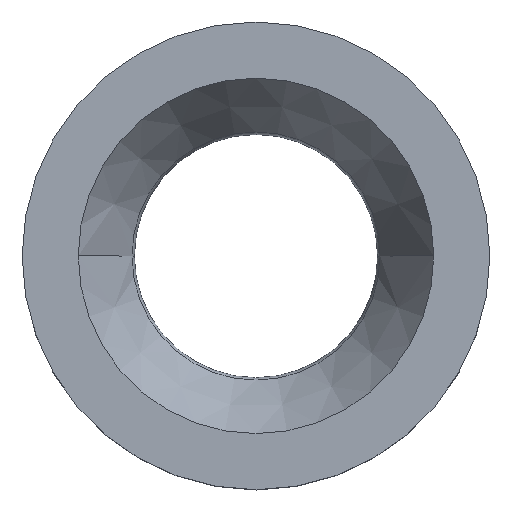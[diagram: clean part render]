
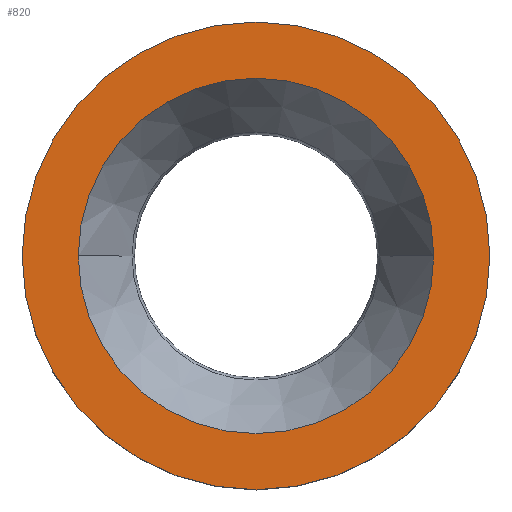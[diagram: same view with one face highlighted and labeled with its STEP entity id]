
A CAD part, top view. The second image highlights one B-rep face of the part: STEP entity #820.
In plain terms, the highlighted planar face has unit normal (0, 0, 1).
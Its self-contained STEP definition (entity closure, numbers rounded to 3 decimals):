
#125=CARTESIAN_POINT('',(0.,0.,16.));
#126=DIRECTION('',(0.,0.,1.));
#127=DIRECTION('',(1.,0.,0.));
#128=AXIS2_PLACEMENT_3D('',#125,#126,#127);
#130=CARTESIAN_POINT('',(0.,0.,16.));
#131=DIRECTION('',(0.,0.,1.));
#132=DIRECTION('',(-1.,0.,0.));
#133=AXIS2_PLACEMENT_3D('',#130,#131,#132);
#135=CARTESIAN_POINT('',(0.,0.,16.));
#136=DIRECTION('',(0.,0.,-1.));
#137=DIRECTION('',(1.,0.,0.));
#138=AXIS2_PLACEMENT_3D('',#135,#136,#137);
#140=CARTESIAN_POINT('',(0.,0.,16.));
#141=DIRECTION('',(0.,0.,-1.));
#142=DIRECTION('',(-1.,0.,0.));
#143=AXIS2_PLACEMENT_3D('',#140,#141,#142);
#515=CARTESIAN_POINT('',(25.,0.,16.));
#516=CARTESIAN_POINT('',(-25.,0.,16.));
#517=VERTEX_POINT('',#515);
#518=VERTEX_POINT('',#516);
#519=CARTESIAN_POINT('',(19.,0.,16.));
#520=CARTESIAN_POINT('',(-19.,0.,16.));
#521=VERTEX_POINT('',#519);
#522=VERTEX_POINT('',#520);
#805=CARTESIAN_POINT('',(0.,0.,16.));
#806=DIRECTION('',(0.,0.,1.));
#807=DIRECTION('',(1.,0.,0.));
#808=AXIS2_PLACEMENT_3D('',#805,#806,#807);
#809=PLANE('',#808);
#811=ORIENTED_EDGE('',*,*,#810,.F.);
#813=ORIENTED_EDGE('',*,*,#812,.F.);
#814=EDGE_LOOP('',(#811,#813));
#815=FACE_OUTER_BOUND('',#814,.F.);
#816=ORIENTED_EDGE('',*,*,#785,.F.);
#817=ORIENTED_EDGE('',*,*,#799,.F.);
#818=EDGE_LOOP('',(#816,#817));
#819=FACE_BOUND('',#818,.F.);
#129=CIRCLE('',#128,25.);
#134=CIRCLE('',#133,25.);
#139=CIRCLE('',#138,19.);
#144=CIRCLE('',#143,19.);
#785=EDGE_CURVE('',#521,#522,#139,.T.);
#799=EDGE_CURVE('',#522,#521,#144,.T.);
#810=EDGE_CURVE('',#517,#518,#129,.T.);
#812=EDGE_CURVE('',#518,#517,#134,.T.);
#820=ADVANCED_FACE('',(#815,#819),#809,.T.);
